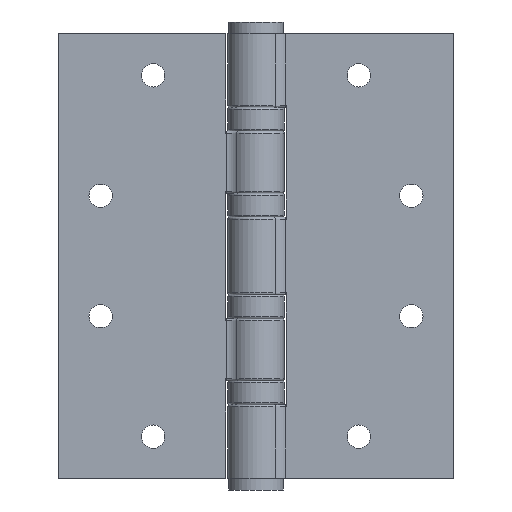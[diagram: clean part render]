
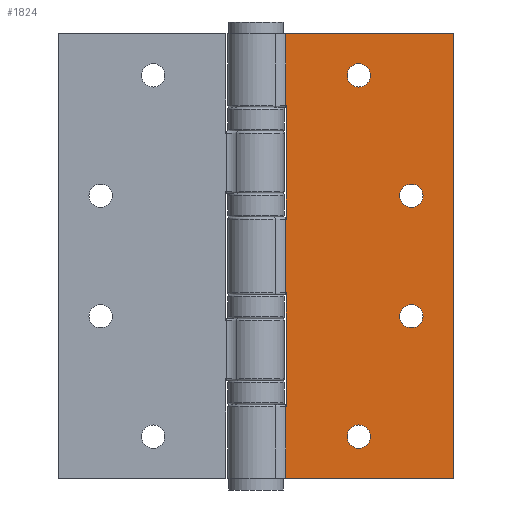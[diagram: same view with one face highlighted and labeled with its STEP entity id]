
A CAD part, front view. The second image highlights one B-rep face of the part: STEP entity #1824.
In plain terms, the highlighted planar face has unit normal (0, -1, 0).
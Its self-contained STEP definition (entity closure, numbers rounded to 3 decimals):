
#55=FACE_BOUND('',#384,.T.);
#56=FACE_BOUND('',#385,.T.);
#57=FACE_BOUND('',#386,.T.);
#58=FACE_BOUND('',#387,.T.);
#112=PLANE('',#2059);
#236=FACE_OUTER_BOUND('',#383,.T.);
#383=EDGE_LOOP('',(#1597,#1598,#1599,#1600,#1601,#1602,#1603,#1604,#1605,
#1606,#1607,#1608));
#384=EDGE_LOOP('',(#1609));
#385=EDGE_LOOP('',(#1610));
#386=EDGE_LOOP('',(#1611));
#387=EDGE_LOOP('',(#1612));
#499=LINE('',#2964,#599);
#507=LINE('',#3015,#607);
#515=LINE('',#3040,#615);
#519=LINE('',#3080,#619);
#528=LINE('',#3103,#628);
#530=LINE('',#3106,#630);
#532=LINE('',#3110,#632);
#533=LINE('',#3113,#633);
#536=LINE('',#3120,#636);
#546=LINE('',#3184,#646);
#547=LINE('',#3186,#647);
#548=LINE('',#3187,#648);
#599=VECTOR('',#2366,0.101);
#607=VECTOR('',#2422,0.101);
#615=VECTOR('',#2444,0.101);
#619=VECTOR('',#2492,0.101);
#628=VECTOR('',#2515,29.25);
#630=VECTOR('',#2519,29.25);
#632=VECTOR('',#2523,18.5);
#633=VECTOR('',#2528,19.);
#636=VECTOR('',#2535,18.5);
#646=VECTOR('',#2615,43.101);
#647=VECTOR('',#2616,114.5);
#648=VECTOR('',#2617,43.101);
#756=CIRCLE('',#2046,3.);
#758=CIRCLE('',#2050,3.);
#760=CIRCLE('',#2054,3.);
#762=CIRCLE('',#2058,3.);
#862=VERTEX_POINT('',#2961);
#863=VERTEX_POINT('',#2963);
#880=VERTEX_POINT('',#3007);
#882=VERTEX_POINT('',#3013);
#891=VERTEX_POINT('',#3037);
#892=VERTEX_POINT('',#3039);
#904=VERTEX_POINT('',#3072);
#906=VERTEX_POINT('',#3078);
#914=VERTEX_POINT('',#3109);
#916=VERTEX_POINT('',#3118);
#928=VERTEX_POINT('',#3162);
#930=VERTEX_POINT('',#3168);
#932=VERTEX_POINT('',#3174);
#934=VERTEX_POINT('',#3180);
#935=VERTEX_POINT('',#3183);
#936=VERTEX_POINT('',#3185);
#1068=EDGE_CURVE('',#862,#863,#499,.T.);
#1093=EDGE_CURVE('',#882,#880,#507,.T.);
#1105=EDGE_CURVE('',#891,#892,#515,.T.);
#1125=EDGE_CURVE('',#906,#904,#519,.T.);
#1137=EDGE_CURVE('',#863,#882,#528,.T.);
#1139=EDGE_CURVE('',#892,#906,#530,.T.);
#1141=EDGE_CURVE('',#914,#904,#532,.T.);
#1143=EDGE_CURVE('',#891,#880,#533,.T.);
#1147=EDGE_CURVE('',#862,#916,#536,.T.);
#1167=EDGE_CURVE('',#928,#928,#756,.T.);
#1169=EDGE_CURVE('',#930,#930,#758,.T.);
#1171=EDGE_CURVE('',#932,#932,#760,.T.);
#1173=EDGE_CURVE('',#934,#934,#762,.T.);
#1174=EDGE_CURVE('',#916,#935,#546,.T.);
#1175=EDGE_CURVE('',#935,#936,#547,.T.);
#1176=EDGE_CURVE('',#936,#914,#548,.T.);
#1597=ORIENTED_EDGE('',*,*,#1068,.F.);
#1598=ORIENTED_EDGE('',*,*,#1147,.T.);
#1599=ORIENTED_EDGE('',*,*,#1174,.T.);
#1600=ORIENTED_EDGE('',*,*,#1175,.T.);
#1601=ORIENTED_EDGE('',*,*,#1176,.T.);
#1602=ORIENTED_EDGE('',*,*,#1141,.T.);
#1603=ORIENTED_EDGE('',*,*,#1125,.F.);
#1604=ORIENTED_EDGE('',*,*,#1139,.F.);
#1605=ORIENTED_EDGE('',*,*,#1105,.F.);
#1606=ORIENTED_EDGE('',*,*,#1143,.T.);
#1607=ORIENTED_EDGE('',*,*,#1093,.F.);
#1608=ORIENTED_EDGE('',*,*,#1137,.F.);
#1609=ORIENTED_EDGE('',*,*,#1167,.F.);
#1610=ORIENTED_EDGE('',*,*,#1169,.F.);
#1611=ORIENTED_EDGE('',*,*,#1171,.F.);
#1612=ORIENTED_EDGE('',*,*,#1173,.F.);
#1824=ADVANCED_FACE('',(#236,#55,#56,#57,#58),#112,.F.);
#2046=AXIS2_PLACEMENT_3D('',#3163,#2587,#2588);
#2050=AXIS2_PLACEMENT_3D('',#3169,#2595,#2596);
#2054=AXIS2_PLACEMENT_3D('',#3175,#2603,#2604);
#2058=AXIS2_PLACEMENT_3D('',#3181,#2611,#2612);
#2059=AXIS2_PLACEMENT_3D('',#3182,#2613,#2614);
#2366=DIRECTION('',(1.,0.,0.));
#2422=DIRECTION('',(-1.,0.,0.));
#2444=DIRECTION('',(1.,0.,0.));
#2492=DIRECTION('',(-1.,0.,0.));
#2515=DIRECTION('',(0.,0.,1.));
#2519=DIRECTION('',(0.,0.,1.));
#2523=DIRECTION('',(0.,0.,-1.));
#2528=DIRECTION('',(0.,0.,-1.));
#2535=DIRECTION('',(0.,0.,-1.));
#2587=DIRECTION('center_axis',(0.,-1.,0.));
#2588=DIRECTION('ref_axis',(-1.,0.,0.));
#2595=DIRECTION('center_axis',(0.,-1.,0.));
#2596=DIRECTION('ref_axis',(-1.,0.,0.));
#2603=DIRECTION('center_axis',(0.,-1.,0.));
#2604=DIRECTION('ref_axis',(-1.,0.,0.));
#2611=DIRECTION('center_axis',(0.,-1.,0.));
#2612=DIRECTION('ref_axis',(-1.,0.,0.));
#2613=DIRECTION('center_axis',(0.,1.,0.));
#2614=DIRECTION('ref_axis',(-1.,0.,0.));
#2615=DIRECTION('',(1.,0.,0.));
#2616=DIRECTION('',(0.,0.,1.));
#2617=DIRECTION('',(-1.,0.,0.));
#2961=CARTESIAN_POINT('',(7.649,-4.25,-38.75));
#2963=CARTESIAN_POINT('',(7.75,-4.25,-38.75));
#2964=CARTESIAN_POINT('',(21.5,-4.25,-38.75));
#3007=CARTESIAN_POINT('',(7.649,-4.25,-9.5));
#3013=CARTESIAN_POINT('',(7.75,-4.25,-9.5));
#3015=CARTESIAN_POINT('',(29.25,-4.25,-9.5));
#3037=CARTESIAN_POINT('',(7.649,-4.25,9.5));
#3039=CARTESIAN_POINT('',(7.75,-4.25,9.5));
#3040=CARTESIAN_POINT('',(21.5,-4.25,9.5));
#3072=CARTESIAN_POINT('',(7.649,-4.25,38.75));
#3078=CARTESIAN_POINT('',(7.75,-4.25,38.75));
#3080=CARTESIAN_POINT('',(29.25,-4.25,38.75));
#3103=CARTESIAN_POINT('',(7.75,-4.25,-8.063));
#3106=CARTESIAN_POINT('',(7.75,-4.25,5.));
#3109=CARTESIAN_POINT('',(7.649,-4.25,57.25));
#3110=CARTESIAN_POINT('',(7.649,-4.25,0.));
#3113=CARTESIAN_POINT('',(7.649,-4.25,0.));
#3118=CARTESIAN_POINT('',(7.649,-4.25,-57.25));
#3120=CARTESIAN_POINT('',(7.649,-4.25,0.));
#3162=CARTESIAN_POINT('',(43.,-4.25,15.5));
#3163=CARTESIAN_POINT('Origin',(40.,-4.25,15.5));
#3168=CARTESIAN_POINT('',(29.5,-4.25,-46.5));
#3169=CARTESIAN_POINT('Origin',(26.5,-4.25,-46.5));
#3174=CARTESIAN_POINT('',(43.,-4.25,-15.5));
#3175=CARTESIAN_POINT('Origin',(40.,-4.25,-15.5));
#3180=CARTESIAN_POINT('',(29.5,-4.25,46.5));
#3181=CARTESIAN_POINT('Origin',(26.5,-4.25,46.5));
#3182=CARTESIAN_POINT('Origin',(50.75,-4.25,0.));
#3183=CARTESIAN_POINT('',(50.75,-4.25,-57.25));
#3184=CARTESIAN_POINT('',(50.75,-4.25,-57.25));
#3185=CARTESIAN_POINT('',(50.75,-4.25,57.25));
#3186=CARTESIAN_POINT('',(50.75,-4.25,0.));
#3187=CARTESIAN_POINT('',(50.75,-4.25,57.25));
